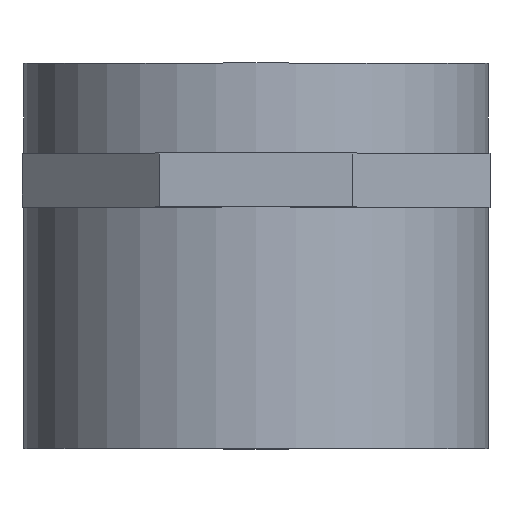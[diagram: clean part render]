
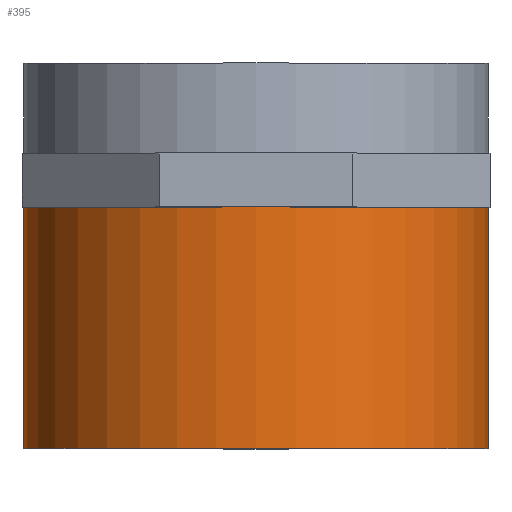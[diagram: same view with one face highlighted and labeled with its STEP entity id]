
A CAD part, top view. The second image highlights one B-rep face of the part: STEP entity #395.
In plain terms, the highlighted cylindrical face has radius 64.5 mm (diameter 129 mm), a full revolution.
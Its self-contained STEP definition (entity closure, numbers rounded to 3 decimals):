
#35=CYLINDRICAL_SURFACE('',#429,64.5);
#44=FACE_BOUND('',#115,.T.);
#46=CIRCLE('',#408,64.5);
#57=CIRCLE('',#428,64.5);
#81=FACE_OUTER_BOUND('',#114,.T.);
#114=EDGE_LOOP('',(#353));
#115=EDGE_LOOP('',(#354));
#188=VERTEX_POINT('',#574);
#206=VERTEX_POINT('',#7259);
#231=EDGE_CURVE('',#188,#188,#46,.T.);
#256=EDGE_CURVE('',#206,#206,#57,.T.);
#353=ORIENTED_EDGE('',*,*,#231,.T.);
#354=ORIENTED_EDGE('',*,*,#256,.T.);
#395=ADVANCED_FACE('',(#81,#44),#35,.T.);
#408=AXIS2_PLACEMENT_3D('',#575,#475,#476);
#428=AXIS2_PLACEMENT_3D('',#7260,#518,#519);
#429=AXIS2_PLACEMENT_3D('',#7261,#520,#521);
#475=DIRECTION('center_axis',(0.,-1.,0.));
#476=DIRECTION('ref_axis',(-1.,0.,0.));
#518=DIRECTION('center_axis',(0.,1.,0.));
#519=DIRECTION('ref_axis',(1.,0.,0.));
#520=DIRECTION('center_axis',(0.,1.,0.));
#521=DIRECTION('ref_axis',(-1.,0.,0.));
#574=CARTESIAN_POINT('',(64.5,67.,0.));
#575=CARTESIAN_POINT('Origin',(0.,67.,0.));
#7259=CARTESIAN_POINT('',(-64.5,0.,0.));
#7260=CARTESIAN_POINT('Origin',(0.,0.,0.));
#7261=CARTESIAN_POINT('Origin',(0.,53.5,0.));
